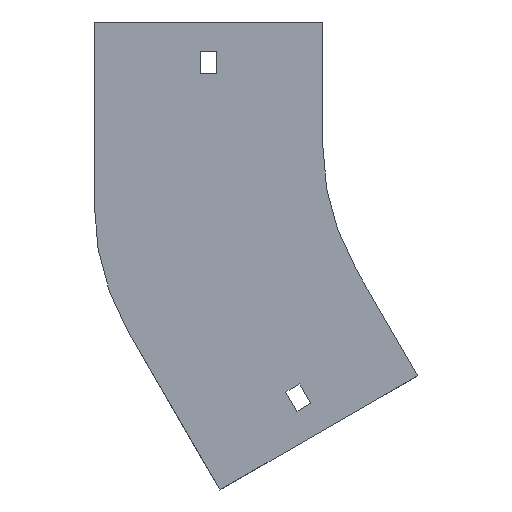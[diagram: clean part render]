
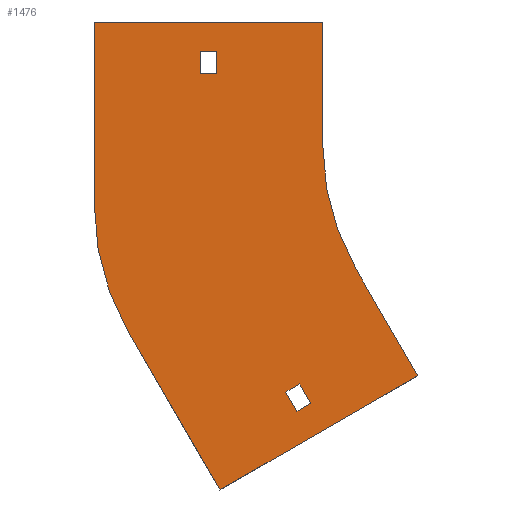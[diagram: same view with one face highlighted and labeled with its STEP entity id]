
A CAD part, front view. The second image highlights one B-rep face of the part: STEP entity #1476.
In plain terms, the highlighted planar face has unit normal (0, -1, 0).
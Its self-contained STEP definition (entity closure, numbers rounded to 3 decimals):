
#26 = VECTOR ( 'NONE', #681, 1000. ) ;
#55 = LINE ( 'NONE', #1556, #26 ) ;
#61 = LINE ( 'NONE', #1848, #625 ) ;
#82 = CARTESIAN_POINT ( 'NONE',  ( -114.971, 0., -99.865 ) ) ;
#89 = ORIENTED_EDGE ( 'NONE', *, *, #132, .F. ) ;
#94 = LINE ( 'NONE', #1743, #1076 ) ;
#127 = VERTEX_POINT ( 'NONE', #1402 ) ;
#132 = EDGE_CURVE ( 'NONE', #291, #1436, #55, .T. ) ;
#141 = ORIENTED_EDGE ( 'NONE', *, *, #998, .F. ) ;
#145 = DIRECTION ( 'NONE',  ( 0.5, 0., -0.866 ) ) ;
#148 = EDGE_CURVE ( 'NONE', #738, #1628, #382, .T. ) ;
#155 = VECTOR ( 'NONE', #1862, 1000. ) ;
#181 = VERTEX_POINT ( 'NONE', #670 ) ;
#183 = DIRECTION ( 'NONE',  ( 0., 0., -1. ) ) ;
#218 = EDGE_CURVE ( 'NONE', #1639, #1620, #829, .T. ) ;
#219 = CARTESIAN_POINT ( 'NONE',  ( -114.971, 0., -99.865 ) ) ;
#254 = DIRECTION ( 'NONE',  ( -0.5, 0., 0.866 ) ) ;
#255 = EDGE_LOOP ( 'NONE', ( #559, #1781, #511, #1010 ) ) ;
#272 = EDGE_CURVE ( 'NONE', #1372, #127, #1898, .T. ) ;
#277 = CARTESIAN_POINT ( 'NONE',  ( -86.603, 0., -50. ) ) ;
#279 = CARTESIAN_POINT ( 'NONE',  ( -192.5, 0., -24.785 ) ) ;
#286 = DIRECTION ( 'NONE',  ( 0., 0., 1. ) ) ;
#291 = VERTEX_POINT ( 'NONE', #566 ) ;
#294 = EDGE_CURVE ( 'NONE', #1771, #375, #416, .T. ) ;
#305 = AXIS2_PLACEMENT_3D ( 'NONE', #501, #1082, #824 ) ;
#325 = CARTESIAN_POINT ( 'NONE',  ( -143., 0., 38. ) ) ;
#351 = CARTESIAN_POINT ( 'NONE',  ( -110.471, 0., -107.659 ) ) ;
#360 = CARTESIAN_POINT ( 'NONE',  ( -149.5, 0., 38. ) ) ;
#373 = CARTESIAN_POINT ( 'NONE',  ( -109.342, 0., -96.615 ) ) ;
#375 = VERTEX_POINT ( 'NONE', #650 ) ;
#377 = LINE ( 'NONE', #82, #1673 ) ;
#382 = LINE ( 'NONE', #373, #1687 ) ;
#416 = LINE ( 'NONE', #277, #1366 ) ;
#426 = EDGE_CURVE ( 'NONE', #1628, #1372, #377, .T. ) ;
#434 = LINE ( 'NONE', #1906, #1336 ) ;
#435 = ORIENTED_EDGE ( 'NONE', *, *, #947, .F. ) ;
#438 = EDGE_CURVE ( 'NONE', #1503, #1771, #1363, .T. ) ;
#464 = CARTESIAN_POINT ( 'NONE',  ( -109.342, 0., -96.615 ) ) ;
#467 = EDGE_CURVE ( 'NONE', #750, #291, #61, .T. ) ;
#484 = CARTESIAN_POINT ( 'NONE',  ( -61.603, 0., -93.301 ) ) ;
#497 = VECTOR ( 'NONE', #1338, 1000. ) ;
#501 = CARTESIAN_POINT ( 'NONE',  ( -92.5, 0., -24.785 ) ) ;
#511 = ORIENTED_EDGE ( 'NONE', *, *, #426, .F. ) ;
#514 = ORIENTED_EDGE ( 'NONE', *, *, #723, .T. ) ;
#556 = CARTESIAN_POINT ( 'NONE',  ( -143., 0., 29. ) ) ;
#559 = ORIENTED_EDGE ( 'NONE', *, *, #655, .F. ) ;
#566 = CARTESIAN_POINT ( 'NONE',  ( -192.5, 0., 50. ) ) ;
#582 = VERTEX_POINT ( 'NONE', #1548 ) ;
#625 = VECTOR ( 'NONE', #666, 1000. ) ;
#650 = CARTESIAN_POINT ( 'NONE',  ( -61.603, 0., -93.301 ) ) ;
#655 = EDGE_CURVE ( 'NONE', #127, #738, #979, .T. ) ;
#666 = DIRECTION ( 'NONE',  ( 0., 0., 1. ) ) ;
#670 = CARTESIAN_POINT ( 'NONE',  ( -141.71, 0., -139.551 ) ) ;
#681 = DIRECTION ( 'NONE',  ( 1., 0., 0. ) ) ;
#685 = LINE ( 'NONE', #834, #954 ) ;
#702 = CARTESIAN_POINT ( 'NONE',  ( -149.5, 0., 29. ) ) ;
#723 = EDGE_CURVE ( 'NONE', #582, #1639, #1695, .T. ) ;
#729 = CARTESIAN_POINT ( 'NONE',  ( -100., 0., 50. ) ) ;
#736 = LINE ( 'NONE', #484, #497 ) ;
#738 = VERTEX_POINT ( 'NONE', #1458 ) ;
#739 = FACE_OUTER_BOUND ( 'NONE', #1420, .T. ) ;
#750 = VERTEX_POINT ( 'NONE', #279 ) ;
#765 = ORIENTED_EDGE ( 'NONE', *, *, #823, .F. ) ;
#772 = CARTESIAN_POINT ( 'NONE',  ( -141.71, 0., -139.551 ) ) ;
#792 = VECTOR ( 'NONE', #1666, 1000. ) ;
#806 = VECTOR ( 'NONE', #1027, 1000. ) ;
#811 = ORIENTED_EDGE ( 'NONE', *, *, #1322, .T. ) ;
#815 = DIRECTION ( 'NONE',  ( -1., 0., 0. ) ) ;
#823 = EDGE_CURVE ( 'NONE', #1436, #1503, #94, .T. ) ;
#824 = DIRECTION ( 'NONE',  ( 0., 0., 1. ) ) ;
#829 = LINE ( 'NONE', #556, #155 ) ;
#834 = CARTESIAN_POINT ( 'NONE',  ( -149.5, 0., 29. ) ) ;
#907 = VERTEX_POINT ( 'NONE', #1788 ) ;
#922 = VECTOR ( 'NONE', #1240, 1000. ) ;
#945 = DIRECTION ( 'NONE',  ( 0., -1., 0. ) ) ;
#947 = EDGE_CURVE ( 'NONE', #181, #907, #1657, .T. ) ;
#952 = DIRECTION ( 'NONE',  ( 1., 0., 0. ) ) ;
#954 = VECTOR ( 'NONE', #815, 1000. ) ;
#963 = ORIENTED_EDGE ( 'NONE', *, *, #1237, .F. ) ;
#979 = LINE ( 'NONE', #351, #922 ) ;
#994 = FACE_BOUND ( 'NONE', #255, .T. ) ;
#998 = EDGE_CURVE ( 'NONE', #375, #181, #736, .T. ) ;
#1010 = ORIENTED_EDGE ( 'NONE', *, *, #148, .F. ) ;
#1011 = AXIS2_PLACEMENT_3D ( 'NONE', #1718, #945, #1550 ) ;
#1027 = DIRECTION ( 'NONE',  ( 0.5, 0., -0.866 ) ) ;
#1034 = FACE_BOUND ( 'NONE', #1838, .T. ) ;
#1050 = CARTESIAN_POINT ( 'NONE',  ( -143., 0., 29. ) ) ;
#1051 = PLANE ( 'NONE',  #1495 ) ;
#1076 = VECTOR ( 'NONE', #1289, 1000. ) ;
#1077 = CIRCLE ( 'NONE', #305, 100. ) ;
#1082 = DIRECTION ( 'NONE',  ( 0., 1., 0. ) ) ;
#1125 = CARTESIAN_POINT ( 'NONE',  ( -100., 0., 0. ) ) ;
#1179 = ORIENTED_EDGE ( 'NONE', *, *, #467, .F. ) ;
#1186 = CARTESIAN_POINT ( 'NONE',  ( -86.603, 0., -50. ) ) ;
#1236 = VECTOR ( 'NONE', #952, 1000. ) ;
#1237 = EDGE_CURVE ( 'NONE', #907, #750, #1077, .T. ) ;
#1240 = DIRECTION ( 'NONE',  ( 0.866, 0., 0.5 ) ) ;
#1289 = DIRECTION ( 'NONE',  ( 0., 0., -1. ) ) ;
#1322 = EDGE_CURVE ( 'NONE', #1620, #1410, #685, .T. ) ;
#1336 = VECTOR ( 'NONE', #286, 1000. ) ;
#1338 = DIRECTION ( 'NONE',  ( -0.866, 0., -0.5 ) ) ;
#1363 = CIRCLE ( 'NONE', #1011, 100. ) ;
#1366 = VECTOR ( 'NONE', #145, 1000. ) ;
#1372 = VERTEX_POINT ( 'NONE', #219 ) ;
#1377 = DIRECTION ( 'NONE',  ( 0., -1., 0. ) ) ;
#1397 = DIRECTION ( 'NONE',  ( -0.866, 0., -0.5 ) ) ;
#1402 = CARTESIAN_POINT ( 'NONE',  ( -110.471, 0., -107.659 ) ) ;
#1410 = VERTEX_POINT ( 'NONE', #702 ) ;
#1420 = EDGE_LOOP ( 'NONE', ( #89, #1179, #963, #435, #141, #1948, #1515, #765 ) ) ;
#1436 = VERTEX_POINT ( 'NONE', #729 ) ;
#1458 = CARTESIAN_POINT ( 'NONE',  ( -104.842, 0., -104.409 ) ) ;
#1476 = ADVANCED_FACE ( 'NONE', ( #1034, #739, #994 ), #1051, .T. ) ;
#1495 = AXIS2_PLACEMENT_3D ( 'NONE', #1525, #1377, #183 ) ;
#1503 = VERTEX_POINT ( 'NONE', #1125 ) ;
#1515 = ORIENTED_EDGE ( 'NONE', *, *, #438, .F. ) ;
#1525 = CARTESIAN_POINT ( 'NONE',  ( 0., 0., 0. ) ) ;
#1548 = CARTESIAN_POINT ( 'NONE',  ( -149.5, 0., 38. ) ) ;
#1550 = DIRECTION ( 'NONE',  ( 0., 0., -1. ) ) ;
#1556 = CARTESIAN_POINT ( 'NONE',  ( -192.5, 0., 50. ) ) ;
#1620 = VERTEX_POINT ( 'NONE', #1050 ) ;
#1628 = VERTEX_POINT ( 'NONE', #464 ) ;
#1639 = VERTEX_POINT ( 'NONE', #325 ) ;
#1657 = LINE ( 'NONE', #772, #792 ) ;
#1666 = DIRECTION ( 'NONE',  ( -0.5, 0., 0.866 ) ) ;
#1673 = VECTOR ( 'NONE', #1397, 1000. ) ;
#1687 = VECTOR ( 'NONE', #254, 1000. ) ;
#1695 = LINE ( 'NONE', #360, #1236 ) ;
#1718 = CARTESIAN_POINT ( 'NONE',  ( 0., 0., 0. ) ) ;
#1739 = EDGE_CURVE ( 'NONE', #1410, #582, #434, .T. ) ;
#1743 = CARTESIAN_POINT ( 'NONE',  ( -100., 0., 50. ) ) ;
#1767 = ORIENTED_EDGE ( 'NONE', *, *, #218, .T. ) ;
#1771 = VERTEX_POINT ( 'NONE', #1186 ) ;
#1781 = ORIENTED_EDGE ( 'NONE', *, *, #272, .F. ) ;
#1787 = CARTESIAN_POINT ( 'NONE',  ( -114.971, 0., -99.865 ) ) ;
#1788 = CARTESIAN_POINT ( 'NONE',  ( -179.103, 0., -74.785 ) ) ;
#1838 = EDGE_LOOP ( 'NONE', ( #1857, #514, #1767, #811 ) ) ;
#1848 = CARTESIAN_POINT ( 'NONE',  ( -192.5, 0., -24.785 ) ) ;
#1857 = ORIENTED_EDGE ( 'NONE', *, *, #1739, .T. ) ;
#1862 = DIRECTION ( 'NONE',  ( 0., 0., -1. ) ) ;
#1898 = LINE ( 'NONE', #1787, #806 ) ;
#1906 = CARTESIAN_POINT ( 'NONE',  ( -149.5, 0., 29. ) ) ;
#1948 = ORIENTED_EDGE ( 'NONE', *, *, #294, .F. ) ;
